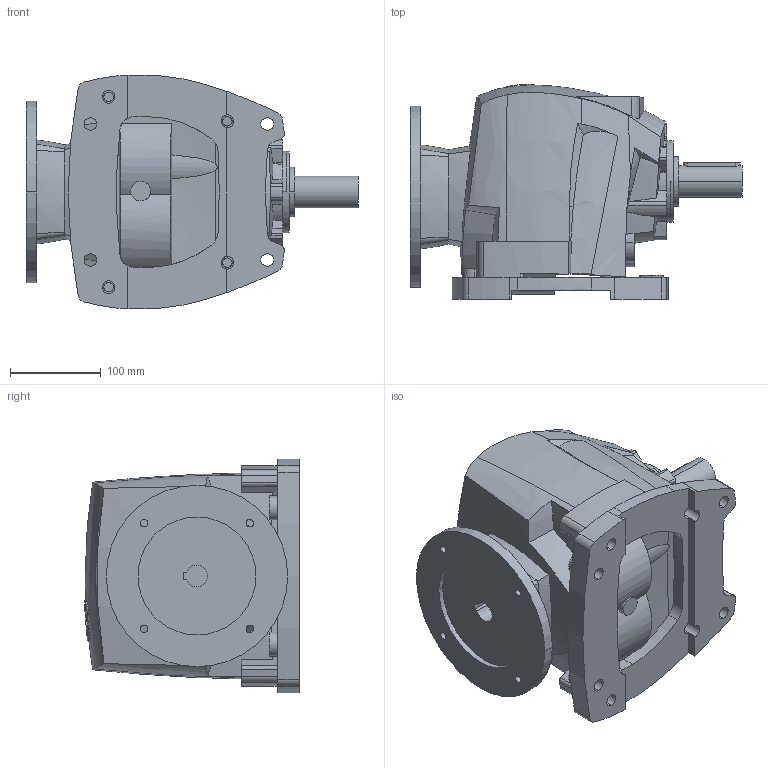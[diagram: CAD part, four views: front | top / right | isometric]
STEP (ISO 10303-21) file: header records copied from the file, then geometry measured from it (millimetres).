
FILE_DESCRIPTION((''),'2;1');
FILE_NAME('R35_SW_PAM90','2013-11-05T',('Luca'),(''),'PRO/ENGINEER BY PARAMETRIC TECHNOLOGY CORPORATION, 2008230','PRO/ENGINEER BY PARAMETRIC TECHNOLOGY CORPORATION, 2008230','');
FILE_SCHEMA(('CONFIG_CONTROL_DESIGN'));
Length unit declared in the file: millimetre
Products named in the file (1): R35_SW_PAM90
Bounding box: 366.06 x 236.95 x 257.96 mm (x, y, z)
Volume: 9656553.8 mm3; surface area: 445629.1 mm2
Topology: 1 solids, 9 shells, 502 faces, 1379 edges, 931 vertices
Faces by surface type: cylinder 179, plane 124, extrusion 101, bspline 67, cone 22, torus 9
Entity records: 25403 total; most frequent: CARTESIAN_POINT 13639, ORIENTED_EDGE 2754, DIRECTION 1833, EDGE_CURVE 1377, VERTEX_POINT 931, B_SPLINE_CURVE_WITH_KNOTS 707, AXIS2_PLACEMENT_3D 627, VECTOR 579
